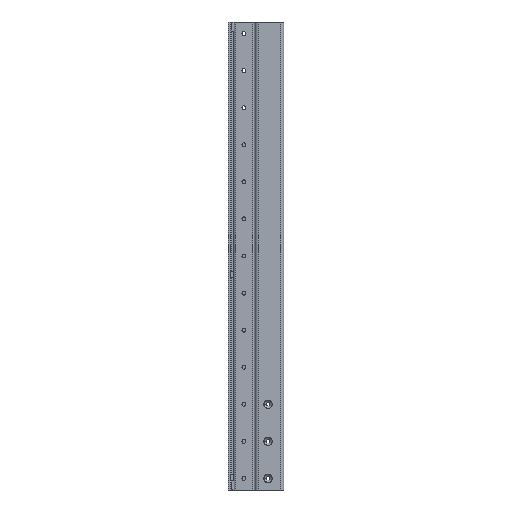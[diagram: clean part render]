
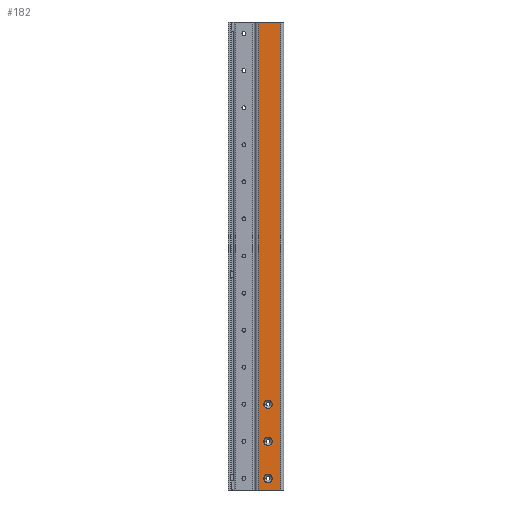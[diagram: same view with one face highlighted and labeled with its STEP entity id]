
A CAD part, left-side view. The second image highlights one B-rep face of the part: STEP entity #182.
In plain terms, the highlighted planar face has unit normal (-1, 0, 0).
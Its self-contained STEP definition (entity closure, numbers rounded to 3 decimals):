
#182=ADVANCED_FACE('',(#597,#598,#599,#600),#601,.T.);
#597=FACE_BOUND('',#1283,.T.);
#598=FACE_BOUND('',#1284,.T.);
#599=FACE_BOUND('',#1285,.T.);
#600=FACE_OUTER_BOUND('',#1286,.T.);
#601=PLANE('',#1287);
#1283=EDGE_LOOP('',(#2539,#2540));
#1284=EDGE_LOOP('',(#2541,#2542));
#1285=EDGE_LOOP('',(#2543,#2544));
#1286=EDGE_LOOP('',(#2545,#2546,#2547,#2548));
#1287=AXIS2_PLACEMENT_3D('',#2549,#2550,#2551);
#2539=ORIENTED_EDGE('',*,*,#4326,.T.);
#2540=ORIENTED_EDGE('',*,*,#4552,.T.);
#2541=ORIENTED_EDGE('',*,*,#4322,.T.);
#2542=ORIENTED_EDGE('',*,*,#4554,.T.);
#2543=ORIENTED_EDGE('',*,*,#4318,.T.);
#2544=ORIENTED_EDGE('',*,*,#4556,.T.);
#2545=ORIENTED_EDGE('',*,*,#4582,.T.);
#2546=ORIENTED_EDGE('',*,*,#4583,.F.);
#2547=ORIENTED_EDGE('',*,*,#4584,.T.);
#2548=ORIENTED_EDGE('',*,*,#4580,.T.);
#2549=CARTESIAN_POINT('',(-26.,-3.,0.0));
#2550=DIRECTION('',(-1.0,0.0,0.0));
#2551=DIRECTION('',(0.0,-1.0,0.0));
#4318=EDGE_CURVE('',#5138,#5135,#5139,.T.);
#4322=EDGE_CURVE('',#5146,#5143,#5147,.T.);
#4326=EDGE_CURVE('',#5154,#5151,#5155,.T.);
#4552=EDGE_CURVE('',#5151,#5154,#5530,.T.);
#4554=EDGE_CURVE('',#5143,#5146,#5532,.T.);
#4556=EDGE_CURVE('',#5135,#5138,#5534,.T.);
#4580=EDGE_CURVE('',#5575,#5573,#5576,.T.);
#4582=EDGE_CURVE('',#5573,#5578,#5579,.T.);
#4583=EDGE_CURVE('',#5580,#5578,#5581,.T.);
#4584=EDGE_CURVE('',#5580,#5575,#5582,.T.);
#5135=VERTEX_POINT('',#6481);
#5138=VERTEX_POINT('',#6485);
#5139=CIRCLE('',#6486,9.0);
#5143=VERTEX_POINT('',#6491);
#5146=VERTEX_POINT('',#6495);
#5147=CIRCLE('',#6496,9.0);
#5151=VERTEX_POINT('',#6501);
#5154=VERTEX_POINT('',#6505);
#5155=CIRCLE('',#6506,9.0);
#5530=CIRCLE('',#7060,9.0);
#5532=CIRCLE('',#7062,9.0);
#5534=CIRCLE('',#7064,9.0);
#5573=VERTEX_POINT('',#7121);
#5575=VERTEX_POINT('',#7123);
#5576=LINE('',#7124,#7125);
#5578=VERTEX_POINT('',#7127);
#5579=LINE('',#7128,#7129);
#5580=VERTEX_POINT('',#7130);
#5581=LINE('',#7131,#7132);
#5582=LINE('',#7133,#7134);
#6481=CARTESIAN_POINT('',(-26.,0.,34.0));
#6485=CARTESIAN_POINT('',(-26.,0.,16.0));
#6486=AXIS2_PLACEMENT_3D('',#8346,#8347,#8348);
#6491=CARTESIAN_POINT('',(-26.,0.,114.0));
#6495=CARTESIAN_POINT('',(-26.,0.,96.0));
#6496=AXIS2_PLACEMENT_3D('',#8354,#8355,#8356);
#6501=CARTESIAN_POINT('',(-26.,0.,194.0));
#6505=CARTESIAN_POINT('',(-26.,0.,176.0));
#6506=AXIS2_PLACEMENT_3D('',#8362,#8363,#8364);
#7060=AXIS2_PLACEMENT_3D('',#8682,#8683,#8684);
#7062=AXIS2_PLACEMENT_3D('',#8688,#8689,#8690);
#7064=AXIS2_PLACEMENT_3D('',#8694,#8695,#8696);
#7121=CARTESIAN_POINT('',(-26.,-27.5,1010.0));
#7123=CARTESIAN_POINT('',(-26.,-27.5,0.0));
#7124=CARTESIAN_POINT('',(-26.,-27.5,0.0));
#7125=VECTOR('',#8730,1.0);
#7127=CARTESIAN_POINT('',(-26.,21.5,1010.0));
#7128=CARTESIAN_POINT('',(-26.,21.5,1010.0));
#7129=VECTOR('',#8734,1.0);
#7130=CARTESIAN_POINT('',(-26.,21.5,0.0));
#7131=CARTESIAN_POINT('',(-26.,21.5,0.0));
#7132=VECTOR('',#8735,1.0);
#7133=CARTESIAN_POINT('',(-26.,21.5,0.0));
#7134=VECTOR('',#8736,1.0);
#8346=CARTESIAN_POINT('',(-26.,0.0,25.0));
#8347=DIRECTION('',(1.0,0.0,-0.0));
#8348=DIRECTION('',(0.0,0.0,1.0));
#8354=CARTESIAN_POINT('',(-26.,0.0,105.0));
#8355=DIRECTION('',(1.0,0.0,-0.0));
#8356=DIRECTION('',(0.0,0.0,1.0));
#8362=CARTESIAN_POINT('',(-26.,0.0,185.0));
#8363=DIRECTION('',(1.0,0.0,-0.0));
#8364=DIRECTION('',(0.0,0.0,1.0));
#8682=CARTESIAN_POINT('',(-26.,0.0,185.0));
#8683=DIRECTION('',(1.0,0.0,-0.0));
#8684=DIRECTION('',(0.0,0.0,1.0));
#8688=CARTESIAN_POINT('',(-26.,0.0,105.0));
#8689=DIRECTION('',(1.0,0.0,-0.0));
#8690=DIRECTION('',(0.0,0.0,1.0));
#8694=CARTESIAN_POINT('',(-26.,0.0,25.0));
#8695=DIRECTION('',(1.0,0.0,-0.0));
#8696=DIRECTION('',(0.0,0.0,1.0));
#8730=DIRECTION('',(0.0,0.0,1.0));
#8734=DIRECTION('',(0.0,1.0,0.0));
#8735=DIRECTION('',(0.0,0.0,1.0));
#8736=DIRECTION('',(0.0,-1.0,0.0));
